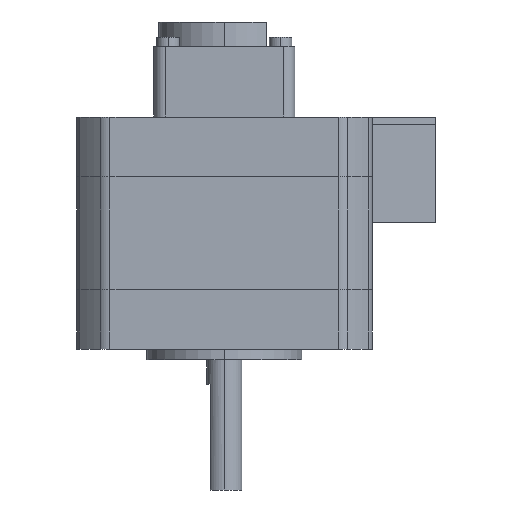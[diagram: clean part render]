
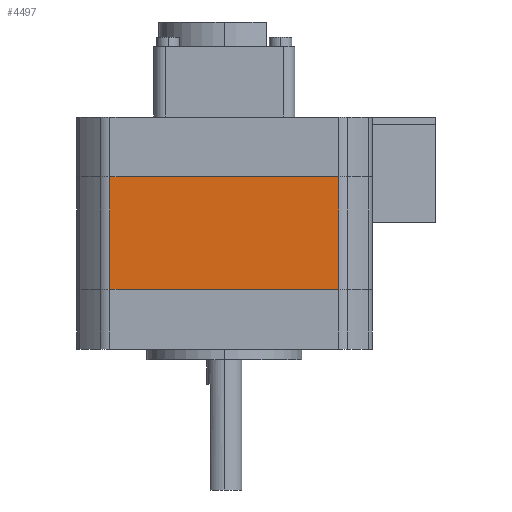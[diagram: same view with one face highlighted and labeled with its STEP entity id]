
A CAD part, left-side view. The second image highlights one B-rep face of the part: STEP entity #4497.
In plain terms, the highlighted planar face has unit normal (-1, 0, 0).
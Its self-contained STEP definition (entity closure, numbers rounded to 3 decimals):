
#182 = CARTESIAN_POINT ( 'NONE',  ( -21., 16.248, 8.5 ) ) ;
#280 = EDGE_CURVE ( 'NONE', #3096, #3219, #3713, .T. ) ;
#336 = VECTOR ( 'NONE', #575, 1000. ) ;
#469 = EDGE_CURVE ( 'NONE', #1414, #896, #5184, .T. ) ;
#575 = DIRECTION ( 'NONE',  ( 0., -1., 0. ) ) ;
#745 = CARTESIAN_POINT ( 'NONE',  ( -21., 16.248, 24.5 ) ) ;
#750 = DIRECTION ( 'NONE',  ( 0., 0., -1. ) ) ;
#896 = VERTEX_POINT ( 'NONE', #1341 ) ;
#1184 = DIRECTION ( 'NONE',  ( 0., 1., 0. ) ) ;
#1341 = CARTESIAN_POINT ( 'NONE',  ( -21., -16.248, 8.5 ) ) ;
#1357 = ORIENTED_EDGE ( 'NONE', *, *, #469, .T. ) ;
#1385 = LINE ( 'NONE', #2465, #3588 ) ;
#1414 = VERTEX_POINT ( 'NONE', #5323 ) ;
#1442 = FACE_OUTER_BOUND ( 'NONE', #2940, .T. ) ;
#1570 = DIRECTION ( 'NONE',  ( 0., 0., -1. ) ) ;
#1607 = PLANE ( 'NONE',  #1839 ) ;
#1628 = CARTESIAN_POINT ( 'NONE',  ( -21., 16.248, 24.5 ) ) ;
#1839 = AXIS2_PLACEMENT_3D ( 'NONE', #745, #3821, #1184 ) ;
#2407 = DIRECTION ( 'NONE',  ( 0., -1., 0. ) ) ;
#2465 = CARTESIAN_POINT ( 'NONE',  ( -21., -16.248, 24.5 ) ) ;
#2940 = EDGE_LOOP ( 'NONE', ( #1357, #4255, #4123, #3389 ) ) ;
#3096 = VERTEX_POINT ( 'NONE', #3154 ) ;
#3154 = CARTESIAN_POINT ( 'NONE',  ( -21., 16.248, 24.5 ) ) ;
#3219 = VERTEX_POINT ( 'NONE', #4580 ) ;
#3236 = VECTOR ( 'NONE', #750, 1000. ) ;
#3389 = ORIENTED_EDGE ( 'NONE', *, *, #4083, .T. ) ;
#3588 = VECTOR ( 'NONE', #1570, 1000. ) ;
#3652 = CARTESIAN_POINT ( 'NONE',  ( -21., 16.248, 24.5 ) ) ;
#3713 = LINE ( 'NONE', #3652, #336 ) ;
#3821 = DIRECTION ( 'NONE',  ( 1., 0., 0. ) ) ;
#4083 = EDGE_CURVE ( 'NONE', #3096, #1414, #4548, .T. ) ;
#4123 = ORIENTED_EDGE ( 'NONE', *, *, #280, .F. ) ;
#4255 = ORIENTED_EDGE ( 'NONE', *, *, #5520, .F. ) ;
#4497 = ADVANCED_FACE ( 'NONE', ( #1442 ), #1607, .F. ) ;
#4548 = LINE ( 'NONE', #1628, #3236 ) ;
#4580 = CARTESIAN_POINT ( 'NONE',  ( -21., -16.248, 24.5 ) ) ;
#5055 = VECTOR ( 'NONE', #2407, 1000. ) ;
#5184 = LINE ( 'NONE', #182, #5055 ) ;
#5323 = CARTESIAN_POINT ( 'NONE',  ( -21., 16.248, 8.5 ) ) ;
#5520 = EDGE_CURVE ( 'NONE', #3219, #896, #1385, .T. ) ;
